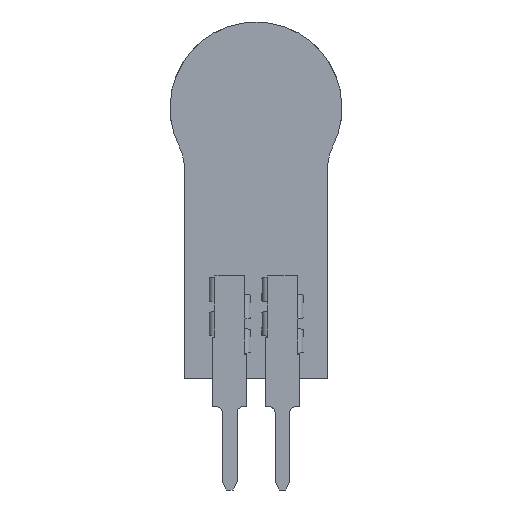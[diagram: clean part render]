
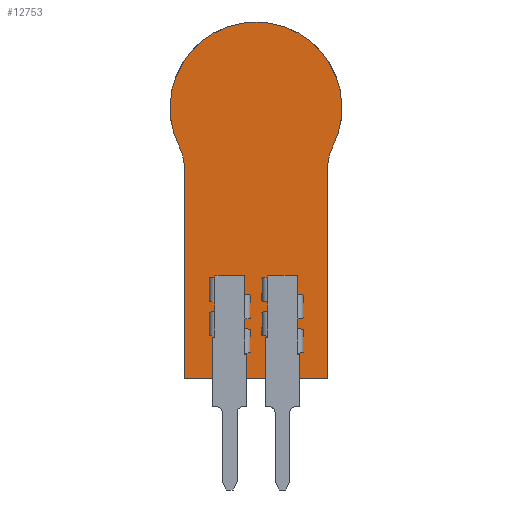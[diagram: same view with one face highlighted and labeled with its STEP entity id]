
A CAD part, front view. The second image highlights one B-rep face of the part: STEP entity #12753.
In plain terms, the highlighted planar face has unit normal (0, -1, 0) as drawn and (0, 1, 0) by its records, which use the part's own axes.
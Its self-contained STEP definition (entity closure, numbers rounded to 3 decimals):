
#1572 = AXIS2_PLACEMENT_3D ( 'NONE', #5997, #5998, #5999 ) ;
#1575 = AXIS2_PLACEMENT_3D ( 'NONE', #6012, #6013, #6014 ) ;
#1577 = AXIS2_PLACEMENT_3D ( 'NONE', #6038, #6039, #6040 ) ;
#1578 = AXIS2_PLACEMENT_3D ( 'NONE', #6041, #6042, #6043 ) ;
#1781 = AXIS2_PLACEMENT_3D ( 'NONE', #9376, #9377, #9378 ) ;
#4011 = CIRCLE ( 'NONE', #1572, 3.81 ) ;
#4020 = CIRCLE ( 'NONE', #1575, 2. ) ;
#4024 = LINE ( 'NONE', #6019, #4025 ) ;
#4025 = VECTOR ( 'NONE', #6020, 1000. ) ;
#4030 = LINE ( 'NONE', #6025, #4031 ) ;
#4031 = VECTOR ( 'NONE', #6026, 1000. ) ;
#4036 = LINE ( 'NONE', #6031, #4037 ) ;
#4037 = VECTOR ( 'NONE', #6032, 1000. ) ;
#4041 = CIRCLE ( 'NONE', #1577, 2. ) ;
#4042 = CIRCLE ( 'NONE', #1578, 3.81 ) ;
#4972 = CARTESIAN_POINT ( 'NONE',  ( -3.175, 0.102, 12. ) ) ;
#4976 = CARTESIAN_POINT ( 'NONE',  ( -3.175, 0.102, 2.641 ) ) ;
#5144 = CARTESIAN_POINT ( 'NONE',  ( 3.175, 0.102, 2.641 ) ) ;
#5313 = CARTESIAN_POINT ( 'NONE',  ( -3.394, 0.102, 1.732 ) ) ;
#5335 = CARTESIAN_POINT ( 'NONE',  ( 0., 0.102, -3.81 ) ) ;
#5342 = CARTESIAN_POINT ( 'NONE',  ( 3.394, 0.102, 1.732 ) ) ;
#5383 = CARTESIAN_POINT ( 'NONE',  ( 3.175, 0.102, 12. ) ) ;
#5997 = CARTESIAN_POINT ( 'NONE',  ( 0., 0.102, 0. ) ) ;
#5998 = DIRECTION ( 'NONE',  ( 0., 1., 0. ) ) ;
#5999 = DIRECTION ( 'NONE',  ( 0., 0., 1. ) ) ;
#6012 = CARTESIAN_POINT ( 'NONE',  ( -5.175, 0.102, 2.641 ) ) ;
#6013 = DIRECTION ( 'NONE',  ( 0., -1., 0. ) ) ;
#6014 = DIRECTION ( 'NONE',  ( 0., 0., 1. ) ) ;
#6019 = CARTESIAN_POINT ( 'NONE',  ( -3.175, 0.102, 2.641 ) ) ;
#6020 = DIRECTION ( 'NONE',  ( 0., 0., 1. ) ) ;
#6025 = CARTESIAN_POINT ( 'NONE',  ( -3.175, 0.102, 12. ) ) ;
#6026 = DIRECTION ( 'NONE',  ( 1., 0., 0. ) ) ;
#6031 = CARTESIAN_POINT ( 'NONE',  ( 3.175, 0.102, 12. ) ) ;
#6032 = DIRECTION ( 'NONE',  ( 0., 0., -1. ) ) ;
#6038 = CARTESIAN_POINT ( 'NONE',  ( 5.175, 0.102, 2.641 ) ) ;
#6039 = DIRECTION ( 'NONE',  ( 0., -1., 0. ) ) ;
#6040 = DIRECTION ( 'NONE',  ( 0., 0., 1. ) ) ;
#6041 = CARTESIAN_POINT ( 'NONE',  ( 0., 0.102, 0. ) ) ;
#6042 = DIRECTION ( 'NONE',  ( 0., 1., 0. ) ) ;
#6043 = DIRECTION ( 'NONE',  ( 0., 0., 1. ) ) ;
#8279 = FACE_OUTER_BOUND ( 'NONE', #14999, .T. ) ;
#9375 = PLANE ( 'NONE',  #1781 ) ;
#9376 = CARTESIAN_POINT ( 'NONE',  ( -5.175, 0.102, 2.641 ) ) ;
#9377 = DIRECTION ( 'NONE',  ( 0., 1., 0. ) ) ;
#9378 = DIRECTION ( 'NONE',  ( 0., 0., 1. ) ) ;
#11065 = VERTEX_POINT ( 'NONE', #4972 ) ;
#11069 = VERTEX_POINT ( 'NONE', #4976 ) ;
#11159 = VERTEX_POINT ( 'NONE', #5144 ) ;
#11328 = VERTEX_POINT ( 'NONE', #5313 ) ;
#11350 = VERTEX_POINT ( 'NONE', #5335 ) ;
#11357 = VERTEX_POINT ( 'NONE', #5342 ) ;
#11398 = VERTEX_POINT ( 'NONE', #5383 ) ;
#12093 = EDGE_CURVE ( 'NONE', #11350, #11328, #4011, .T. ) ;
#12099 = EDGE_CURVE ( 'NONE', #11328, #11069, #4020, .T. ) ;
#12102 = EDGE_CURVE ( 'NONE', #11069, #11065, #4024, .T. ) ;
#12105 = EDGE_CURVE ( 'NONE', #11065, #11398, #4030, .T. ) ;
#12108 = EDGE_CURVE ( 'NONE', #11398, #11159, #4036, .T. ) ;
#12111 = EDGE_CURVE ( 'NONE', #11159, #11357, #4041, .T. ) ;
#12112 = EDGE_CURVE ( 'NONE', #11357, #11350, #4042, .T. ) ;
#12753 = ADVANCED_FACE ( 'NONE', ( #8279 ), #9375, .T. ) ;
#13209 = ORIENTED_EDGE ( 'NONE', *, *, #12099, .T. ) ;
#13210 = ORIENTED_EDGE ( 'NONE', *, *, #12102, .T. ) ;
#13211 = ORIENTED_EDGE ( 'NONE', *, *, #12105, .T. ) ;
#13212 = ORIENTED_EDGE ( 'NONE', *, *, #12108, .T. ) ;
#13213 = ORIENTED_EDGE ( 'NONE', *, *, #12111, .T. ) ;
#13214 = ORIENTED_EDGE ( 'NONE', *, *, #12112, .T. ) ;
#13215 = ORIENTED_EDGE ( 'NONE', *, *, #12093, .T. ) ;
#14999 = EDGE_LOOP ( 'NONE', ( #13209, #13210, #13211, #13212, #13213, #13214, #13215 ) ) ;
